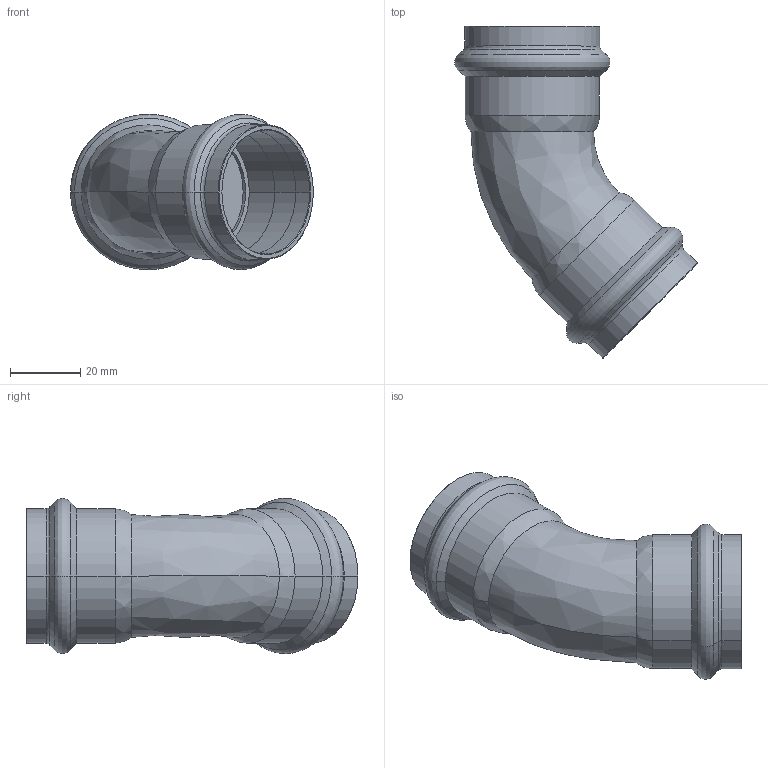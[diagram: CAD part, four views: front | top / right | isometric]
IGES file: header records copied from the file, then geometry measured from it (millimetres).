
Start section: Elysium IGES Interface
Global section: file name: C:\Users\Wallenburg\Desktop\3d modellen sudo\S-Pr VP\SP6041V\6041VW35.igs; native system: CoCreate Modeling 17.00A  17-Jun-2010; preprocessor: CoCreate IGES_3D V2.2; author: Unknown; organization: Unknown; date: 20130116.085415; units: millimetre
Bounding box: 69.24 x 94.68 x 44.27 mm (x, y, z)
Volume: 6119.7 mm3; surface area: 29546.1 mm2
Topology: 1 solids, 5 shells, 82 faces, 160 edges, 88 vertices
Faces by surface type: bspline 82
